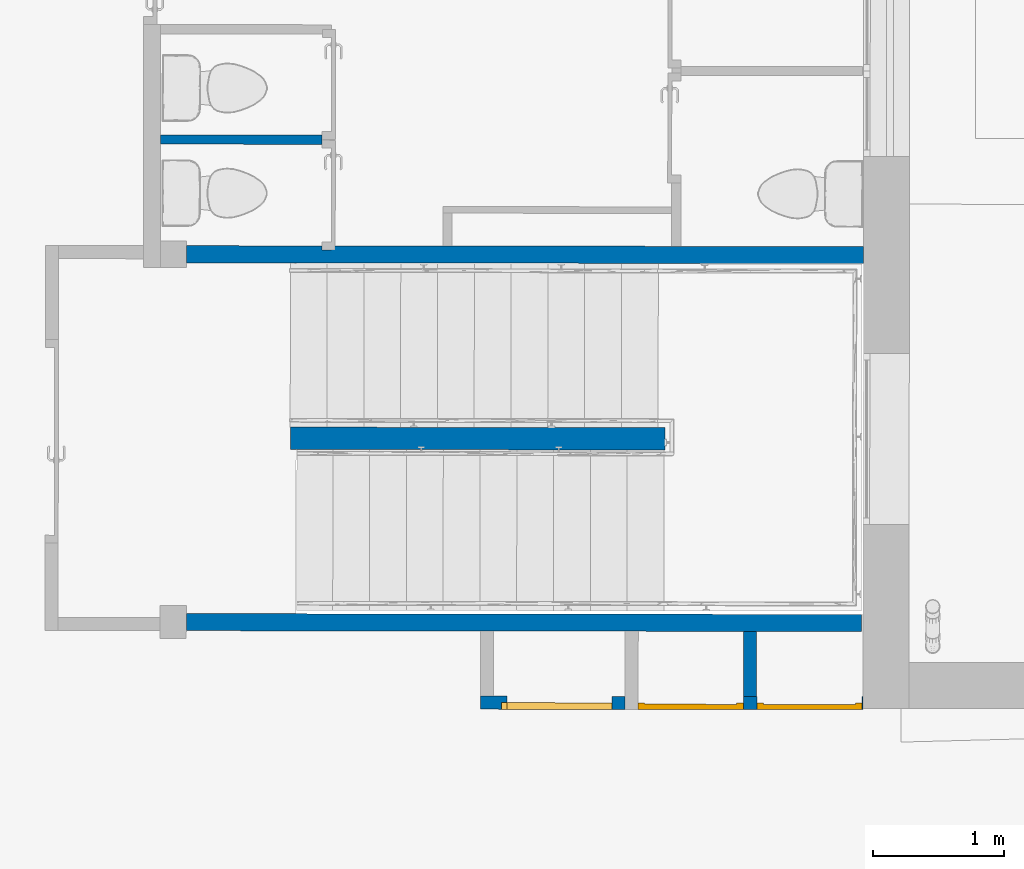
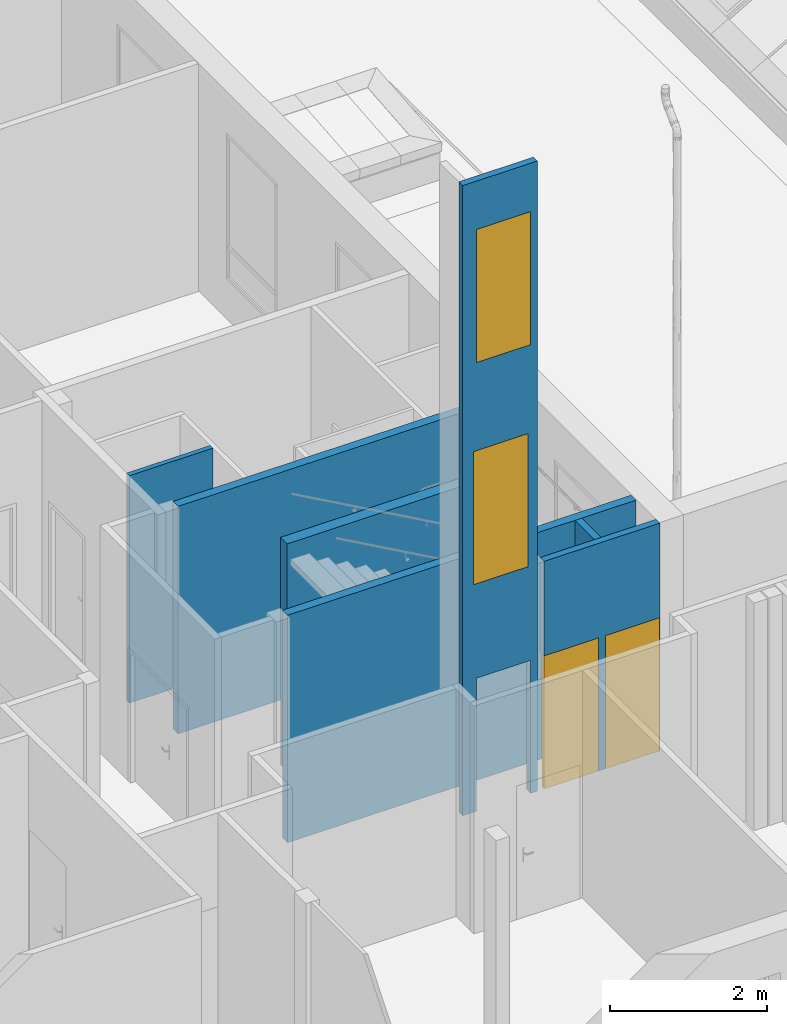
"""IFC2X3 building model written with IfcOpenShell, lengths in metres."""

from ifc_helpers import new_model, entity, si_unit, converted_unit, derived_unit, direction, frame, frame_2d, origin, place, context, subcontext, project, spatial, rectangle, extrude, faceted_brep, source, transform, mapped, material, material_list, layer, layer_set, layer_usage, type_object, type_shapes, element, fill, save


model = new_model("IFC2X3")

# Units and contexts
model_context = context("Model", 3, precision=1e-05, world=origin(), true_north=direction((6.123233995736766e-17, 1.0)))
body_context = subcontext(model_context, "Body", "Model", "MODEL_VIEW")
ifc_project = project(units=[si_unit("LENGTHUNIT", "METRE"), si_unit("AREAUNIT", "SQUARE_METRE"), converted_unit("PLANEANGLEUNIT", "DEGREE", entity("IfcPlaneAngleMeasure", 0.017453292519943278), si_unit("PLANEANGLEUNIT", "RADIAN"), dimensions=[0, 0, 0, 0, 0, 0, 0]), derived_unit("THERMALTRANSMITTANCEUNIT", [(si_unit("MASSUNIT", "GRAM", prefix="KILO"), 1), (si_unit("THERMODYNAMICTEMPERATUREUNIT", "KELVIN"), -1), (si_unit("TIMEUNIT", "SECOND"), -3)])], contexts=[model_context])

# Site, building, storey
site_placement = place(None, frame((1253.6752467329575, 2072.143113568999, 91.49999999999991), z_axis=(0.0, 0.0, 1.0), x_axis=(0.7237211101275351, 0.6900925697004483, 0.0)))
site = spatial("IfcSite", under=ifc_project, at=site_placement, Name="Surface", CompositionType="ELEMENT")
building_placement = place(site_placement, origin())
building = spatial("IfcBuilding", under=site, at=building_placement, CompositionType="ELEMENT")
storey_1_placement = place(building_placement, origin())
storey_1 = spatial("IfcBuildingStorey", under=building, at=storey_1_placement, Name="0- Rdc", CompositionType="ELEMENT", Elevation=-5.764692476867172e-13)

# Wall
ifc_material_1 = material(Name="OMD_Béton blanc")
ifc_layer_1 = layer(ifc_material_1, 0.12999999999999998)
ifc_layer_set_1 = layer_set([ifc_layer_1], Name="Mur de base:MUR 13")
ifc_layer_usage_1 = layer_usage(ifc_layer_set_1, "AXIS2", "NEGATIVE", 0.06499999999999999)
wall_type_1 = type_object("IfcWallType", Name="Mur de base:MUR 13", PredefinedType="STANDARD", material=ifc_layer_set_1)
wall_1_placement = place(storey_1_placement, frame((160.02354715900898, 1.5641534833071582, 0.0), z_axis=(0.0, 0.0, 1.0), x_axis=(-0.7228702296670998, 0.6909838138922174, 0.0)))
element("IfcWallStandardCase", 1, at=wall_1_placement, inside=storey_1, type_object=wall_type_1, material=ifc_layer_usage_1, Name="Mur de base:MUR 13", ObjectType="Mur de base:MUR 13", context=body_context, shape_type="SweptSolid", body=[
    extrude(rectangle(XDim=5.140000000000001, YDim=0.13000000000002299, at=frame_2d((2.5700000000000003, -5.065392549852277e-16), x_axis=(-1.0, 0.0))), origin(), (0.0, 0.0, 1.0), 3.5499999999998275),
])

# Wall, opening
ifc_layer_usage_2 = layer_usage(ifc_layer_set_1, "AXIS2", "NEGATIVE", 0.06499999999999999)
wall_2_placement = place(storey_1_placement, frame((161.96553054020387, 3.5812802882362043, 0.0), z_axis=(0.0, 0.0, 1.0), x_axis=(-0.7228702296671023, 0.6909838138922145, 0.0)))
wall_2 = element("IfcWallStandardCase", 2, at=wall_2_placement, inside=storey_1, type_object=wall_type_1, material=ifc_layer_usage_2, Name="Mur de base:MUR 13", ObjectType="Mur de base:MUR 13", context=body_context, shape_type="SweptSolid", body=[
    extrude(rectangle(XDim=5.149999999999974, YDim=0.1300000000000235, at=frame_2d((2.574999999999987, 4.163336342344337e-17), x_axis=(-1.0, 0.0))), origin(), (0.0, 0.0, 1.0), 3.5499999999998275),
])
opening_1_placement = place(wall_2_placement, frame((114.60545354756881, 114.50436091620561, 0.0)))
element("IfcOpeningElement", 3, at=opening_1_placement, cuts=wall_2, Name="Mur de base:MUR 13", ObjectType="Opening", context=body_context, shape_type="SweptSolid", body=[
    extrude(rectangle(XDim=2.0850000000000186, YDim=0.07000000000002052, at=frame_2d((1.738539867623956e-14, -1.1102230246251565e-16), x_axis=(0.0, 1.0))), frame((-110.52045354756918, -115.37311091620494, 1.0425000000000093), z_axis=(0.0, 1.0, 0.0), x_axis=(1.0, 0.0, 0.0)), (0.0, 0.0, 1.0), 0.8349999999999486),
])

# Wall
ifc_layer_2 = layer(ifc_material_1, 0.1)
ifc_layer_set_2 = layer_set([ifc_layer_2], Name="Mur de base:MUR 10")
ifc_layer_usage_3 = layer_usage(ifc_layer_set_2, "AXIS2", "NEGATIVE", 0.05)
wall_type_2 = type_object("IfcWallType", Name="Mur de base:MUR 10", PredefinedType="STANDARD", material=ifc_layer_set_2)
wall_3_placement = place(storey_1_placement, frame((159.36419351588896, 2.104503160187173, 0.0), z_axis=(0.0, 0.0, 1.0), x_axis=(-0.6909838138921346, -0.7228702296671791, 0.0)))
element("IfcWallStandardCase", 4, at=wall_3_placement, inside=storey_1, type_object=wall_type_2, material=ifc_layer_usage_3, Name="Mur de base:MUR 10", ObjectType="Mur de base:MUR 10", context=body_context, shape_type="SweptSolid", body=[
    extrude(rectangle(XDim=0.4949999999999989, YDim=0.10000000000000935, at=frame_2d((0.24749999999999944, -8.465450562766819e-16), x_axis=(-1.0, 0.0))), origin(), (0.0, 0.0, 1.0), 3.5499999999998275),
])

# Wall, openings, doors
ifc_layer_usage_4 = layer_usage(ifc_layer_set_2, "AXIS2", "NEGATIVE", 0.05)
wall_4_placement = place(storey_1_placement, frame((159.60927573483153, 1.1162928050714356, 0.0), z_axis=(0.0, 0.0, 1.0), x_axis=(-0.7228702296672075, 0.6909838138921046, 0.0)))
wall_4 = element("IfcWallStandardCase", 5, at=wall_4_placement, inside=storey_1, type_object=wall_type_2, material=ifc_layer_usage_4, Name="Mur de base:MUR 10", ObjectType="Mur de base:MUR 10", context=body_context, shape_type="SweptSolid", body=[
    extrude(rectangle(XDim=1.7099999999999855, YDim=0.10000000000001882, at=frame_2d((0.8549999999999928, 5.967448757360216e-16), x_axis=(-1.0, 0.0))), origin(), (0.0, 0.0, 1.0), 3.5499999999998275),
])
opening_2_placement = place(wall_4_placement, frame((1.709999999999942, 0.050000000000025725, 0.0)))
opening_2 = element("IfcOpeningElement", 6, at=opening_2_placement, cuts=wall_4, Name="Grz_Placard 1V:80X204:1", ObjectType="Opening", context=body_context, shape_type="SweptSolid", body=[
    extrude(rectangle(XDim=2.0749999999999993, YDim=0.8, at=frame_2d((1.0374999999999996, 0.4), x_axis=(1.0, 0.0))), frame((0.0, 0.0, 0.0), z_axis=(0.0, -1.0, 0.0), x_axis=(0.0, 0.0, 1.0)), (0.0, 0.0, 1.0), 0.1),
])
opening_3_placement = place(wall_4_placement, frame((0.8049999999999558, 0.050000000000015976, 0.0)))
opening_3 = element("IfcOpeningElement", 7, at=opening_3_placement, cuts=wall_4, Name="Grz_Placard 1V:80X204:1", ObjectType="Opening", context=body_context, shape_type="SweptSolid", body=[
    extrude(rectangle(XDim=2.0749999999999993, YDim=0.8, at=frame_2d((1.0374999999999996, 0.4), x_axis=(1.0, 0.0))), frame((0.0, 0.0, 0.0), z_axis=(0.0, -1.0, 0.0), x_axis=(0.0, 0.0, 1.0)), (0.0, 0.0, 1.0), 0.1),
])
ifc_material_2 = material(Name="Porte - Panneau")
ifc_material_3 = material(Name="Porte - Cadre")
ifc_material_list = material_list([ifc_material_2, ifc_material_3])
door_style_1 = type_object("IfcDoorStyle", Name="Grz_Placard 1V:80X204", ConstructionType="NOTDEFINED", OperationType="DOUBLE_DOOR_SINGLE_SWING", ParameterTakesPrecedence=False, Sizeable=False, material=ifc_material_list)
shared_shape_1 = source(origin(), body_context, "Body", "Brep", [
    faceted_brep([(0.03499999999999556, 0.0, 2.04), (0.03499999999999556, 0.0, 0.0), (0.7649999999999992, 0.0, 0.0), (0.7649999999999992, 0.0, 2.04), (0.0349999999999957, 0.040000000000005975, 2.04), (0.0349999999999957, 0.040000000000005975, 0.0), (0.7649999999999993, 0.04000000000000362, 0.0), (0.7649999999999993, 0.04000000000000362, 2.04)], [[[0, 1, 2, 3]], [[1, 0, 4, 5]], [[2, 1, 5, 6]], [[3, 2, 6, 7]], [[4, 7, 6, 5]], [[0, 3, 7, 4]]]),
    faceted_brep([(0.0, 0.050000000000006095, 0.0), (0.0499999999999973, 0.05000000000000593, 0.0), (0.0499999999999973, 0.040000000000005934, 0.0), (0.0349999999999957, 0.04000000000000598, 0.0), (0.03499999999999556, 0.0, 0.0), (0.0, 0.0, 0.0), (0.0, 0.050000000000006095, 2.0749999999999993), (0.8000000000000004, 0.05000000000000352, 2.0749999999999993), (0.8000000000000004, 0.05000000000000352, 0.0), (0.7500000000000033, 0.05000000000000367, 0.0), (0.7500000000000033, 0.05000000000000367, 2.025000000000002), (0.04999999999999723, 0.05000000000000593, 2.025000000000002), (0.049999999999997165, 0.040000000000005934, 2.025000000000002), (0.7500000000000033, 0.040000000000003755, 2.025000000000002), (0.7500000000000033, 0.04000000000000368, 0.0), (0.7650000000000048, 0.04000000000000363, 0.0), (0.7650000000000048, 0.04000000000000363, 2.0400000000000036), (0.03499999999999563, 0.04000000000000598, 2.0400000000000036), (0.03499999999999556, 0.0, 2.0400000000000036), (0.7650000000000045, 0.0, 2.040000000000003), (0.7650000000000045, 0.0, 0.0), (0.8, 0.0, 0.0), (0.8000000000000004, 0.0, 2.0749999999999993), (0.0, 0.0, 2.0749999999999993)], [[[0, 1, 2, 3, 4, 5]], [[1, 0, 6, 7, 8, 9, 10, 11]], [[2, 1, 11, 12]], [[3, 2, 12, 13, 14, 15, 16, 17]], [[4, 3, 17, 18]], [[5, 4, 18, 19, 20, 21, 22, 23]], [[0, 5, 23, 6]], [[7, 22, 21, 8]], [[8, 21, 20, 15, 14, 9]], [[13, 10, 9, 14]], [[19, 16, 15, 20]], [[12, 11, 10, 13]], [[18, 17, 16, 19]], [[6, 23, 22, 7]]]),
])
type_shapes(door_style_1, [shared_shape_1])
door_1_placement = place(opening_2_placement, frame((0.0, 0.0, 0.0), z_axis=(0.0, 0.0, 1.0), x_axis=(-1.0, 0.0, 0.0)))
door_1 = element("IfcDoor", 8, at=door_1_placement, inside=storey_1, type_object=door_style_1, material=ifc_material_list, Name="Grz_Placard 1V:80X204", ObjectType="Grz_Placard 1V:80X204", OverallHeight=2.0749999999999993, OverallWidth=0.8000000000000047, context=body_context, shape_type="MappedRepresentation", body=[
    mapped(shared_shape_1, transform((0.0, 0.0, 0.0), scale=1.0)),
])
fill(opening_2, door_1)
door_2_placement = place(opening_3_placement, frame((0.0, 0.0, 0.0), z_axis=(0.0, 0.0, 1.0), x_axis=(-1.0, 0.0, 0.0)))
door_2 = element("IfcDoor", 9, at=door_2_placement, inside=storey_1, type_object=door_style_1, material=ifc_material_list, Name="Grz_Placard 1V:80X204", ObjectType="Grz_Placard 1V:80X204", OverallHeight=2.0749999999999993, OverallWidth=0.8000000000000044, context=body_context, shape_type="MappedRepresentation", body=[
    mapped(shared_shape_1, transform((0.0, 0.0, 0.0), scale=1.0)),
])
fill(opening_3, door_2)

# Walls
ifc_layer_3 = layer(ifc_material_1, 0.17)
ifc_layer_set_3 = layer_set([ifc_layer_3], Name="Mur de base:MUR 17")
ifc_layer_usage_5 = layer_usage(ifc_layer_set_3, "AXIS2", "NEGATIVE", 0.085)
wall_type_3 = type_object("IfcWallType", Name="Mur de base:MUR 17", PredefinedType="STANDARD", material=ifc_layer_set_3)
wall_5_placement = place(storey_1_placement, frame((159.90661915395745, 3.6126475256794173, 0.0), z_axis=(0.0, 0.0, 1.0), x_axis=(-0.7228702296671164, 0.6909838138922, 0.0)))
element("IfcWallStandardCase", 10, at=wall_5_placement, inside=storey_1, type_object=wall_type_3, material=ifc_layer_usage_5, Name="Mur de base:MUR 17", ObjectType="Mur de base:MUR 17", context=body_context, shape_type="SweptSolid", body=[
    extrude(rectangle(XDim=2.850000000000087, YDim=0.17000000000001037, at=frame_2d((1.4250000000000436, -2.796374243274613e-15), x_axis=(-1.0, 0.0))), origin(), (0.0, 0.0, 1.0), 3.5499999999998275),
])
ifc_layer_4 = layer(ifc_material_1, 0.07)
ifc_layer_set_4 = layer_set([ifc_layer_4], Name="Mur de base:MUR 7")
ifc_layer_usage_6 = layer_usage(ifc_layer_set_4, "AXIS2", "NEGATIVE", 0.035)
wall_type_4 = type_object("IfcWallType", Name="Mur de base:MUR 7", PredefinedType="STANDARD", material=ifc_layer_set_4)
wall_6_placement = place(storey_1_placement, frame((159.59018857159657, 7.05883787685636, 0.0), z_axis=(0.0, 0.0, 1.0), x_axis=(-0.7228702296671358, 0.6909838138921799, 0.0)))
element("IfcWallStandardCase", 11, at=wall_6_placement, inside=storey_1, type_object=wall_type_4, material=ifc_layer_usage_6, Name="Mur de base:MUR 7", ObjectType="Mur de base:MUR 7", context=body_context, shape_type="SweptSolid", body=[
    extrude(rectangle(XDim=1.2300000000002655, YDim=0.07000000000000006, at=frame_2d((0.6150000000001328, -1.0061396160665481e-15), x_axis=(-1.0, 0.0))), origin(), (0.0, 0.0, 1.0), 3.5499999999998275),
])

# Wall, openings
ifc_material_4 = material(Name="OMD_Cloison 100mm")
ifc_layer_5 = layer(ifc_material_4, 0.1)
ifc_layer_set_5 = layer_set([ifc_layer_5], Name="Mur de base:Cloison 100mm")
ifc_layer_usage_7 = layer_usage(ifc_layer_set_5, "AXIS2", "NEGATIVE", 0.05)
wall_type_5 = type_object("IfcWallType", Name="Mur de base:Cloison 100mm", PredefinedType="STANDARD", material=ifc_layer_set_5)
wall_7_placement = place(storey_1_placement, frame((158.30088061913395, 2.366973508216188, 0.0), z_axis=(0.0, 0.0, 1.0), x_axis=(-0.7228702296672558, 0.6909838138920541, 0.0)))
wall_7 = element("IfcWallStandardCase", 12, at=wall_7_placement, inside=storey_1, type_object=wall_type_5, material=ifc_layer_usage_7, Name="Mur de base:Cloison 100mm", ObjectType="Mur de base:Cloison 100mm", context=body_context, shape_type="SweptSolid", body=[
    extrude(rectangle(XDim=1.1000000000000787, YDim=0.1000000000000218, at=frame_2d((0.5500000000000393, -1.1796119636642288e-16), x_axis=(-1.0, 0.0))), origin(), (0.0, 0.0, 1.0), 9.83000000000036),
])
opening_4_placement = place(wall_7_placement, frame((0.9000000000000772, 0.05000000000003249, 0.0)))
element("IfcOpeningElement", 13, at=opening_4_placement, cuts=wall_7, Name="Grz_Placard 1V:80X204:1", ObjectType="Opening", context=body_context, shape_type="SweptSolid", body=[
    extrude(rectangle(XDim=2.0749999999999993, YDim=0.8, at=frame_2d((1.0374999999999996, 0.40000000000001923), x_axis=(1.0, 0.0))), frame((0.0, 0.0, 0.0), z_axis=(0.0, -1.0, 0.0), x_axis=(0.0, 0.0, 1.0)), (0.0, 0.0, 1.0), 0.1),
])
opening_5_placement = place(wall_7_placement, frame((0.9400000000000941, 0.05000000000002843, 3.549999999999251)))
opening_5 = element("IfcOpeningElement", 14, at=opening_5_placement, cuts=wall_7, Name="Grz_Placard 1V:80X204:1", ObjectType="Opening", context=body_context, shape_type="SweptSolid", body=[
    extrude(rectangle(XDim=2.0749999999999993, YDim=0.8, at=frame_2d((1.0374999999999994, 0.4), x_axis=(1.0, 0.0))), frame((0.0, 0.0, 0.0), z_axis=(0.0, -1.0, 0.0), x_axis=(0.0, 0.0, 1.0)), (0.0, 0.0, 1.0), 0.1),
])
opening_6_placement = place(wall_7_placement, frame((0.9000000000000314, 0.050000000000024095, 7.0)))
opening_6 = element("IfcOpeningElement", 15, at=opening_6_placement, cuts=wall_7, Name="Grz_Placard 1V:80X204:1", ObjectType="Opening", context=body_context, shape_type="SweptSolid", body=[
    extrude(rectangle(XDim=2.0749999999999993, YDim=0.8, at=frame_2d((1.0374999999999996, 0.4), x_axis=(1.0, 0.0))), frame((0.0, 0.0, 0.0), z_axis=(0.0, -1.0, 0.0), x_axis=(0.0, 0.0, 1.0)), (0.0, 0.0, 1.0), 0.1),
])

# Storey
storey_2_placement = place(building_placement, frame((0.0, 0.0, 3.549999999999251)))
storey_2 = spatial("IfcBuildingStorey", under=building, at=storey_2_placement, Name="1-R+1", CompositionType="ELEMENT", Elevation=3.549999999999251)

# Door
door_style_2 = type_object("IfcDoorStyle", Name="Grz_Placard 1V:80X204", ConstructionType="NOTDEFINED", OperationType="DOUBLE_DOOR_SINGLE_SWING", ParameterTakesPrecedence=False, Sizeable=False, material=ifc_material_list)
shared_shape_2 = source(origin(), body_context, "Body", "Brep", [
    faceted_brep([(0.03499999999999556, 0.0, 2.04), (0.03499999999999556, 0.0, 0.0), (0.7649999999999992, 0.0, 0.0), (0.7649999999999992, 0.0, 2.04), (0.0349999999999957, 0.040000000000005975, 2.04), (0.0349999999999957, 0.040000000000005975, 0.0), (0.7649999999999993, 0.04000000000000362, 0.0), (0.7649999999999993, 0.04000000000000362, 2.04)], [[[0, 1, 2, 3]], [[1, 0, 4, 5]], [[2, 1, 5, 6]], [[3, 2, 6, 7]], [[4, 7, 6, 5]], [[0, 3, 7, 4]]]),
    faceted_brep([(0.0, 0.050000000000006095, 0.0), (0.0499999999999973, 0.05000000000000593, 0.0), (0.0499999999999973, 0.040000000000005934, 0.0), (0.0349999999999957, 0.04000000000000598, 0.0), (0.03499999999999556, 0.0, 0.0), (0.0, 0.0, 0.0), (0.0, 0.050000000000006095, 2.0749999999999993), (0.8000000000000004, 0.05000000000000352, 2.0749999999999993), (0.8000000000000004, 0.05000000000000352, 0.0), (0.7500000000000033, 0.05000000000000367, 0.0), (0.7500000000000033, 0.05000000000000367, 2.025000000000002), (0.04999999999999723, 0.05000000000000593, 2.025000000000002), (0.049999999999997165, 0.040000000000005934, 2.025000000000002), (0.7500000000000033, 0.040000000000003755, 2.025000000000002), (0.7500000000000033, 0.04000000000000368, 0.0), (0.7650000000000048, 0.04000000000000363, 0.0), (0.7650000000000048, 0.04000000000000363, 2.0400000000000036), (0.03499999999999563, 0.04000000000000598, 2.0400000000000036), (0.03499999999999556, 0.0, 2.0400000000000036), (0.7650000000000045, 0.0, 2.040000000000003), (0.7650000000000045, 0.0, 0.0), (0.8, 0.0, 0.0), (0.8000000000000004, 0.0, 2.0749999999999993), (0.0, 0.0, 2.0749999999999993)], [[[0, 1, 2, 3, 4, 5]], [[1, 0, 6, 7, 8, 9, 10, 11]], [[2, 1, 11, 12]], [[3, 2, 12, 13, 14, 15, 16, 17]], [[4, 3, 17, 18]], [[5, 4, 18, 19, 20, 21, 22, 23]], [[0, 5, 23, 6]], [[7, 22, 21, 8]], [[8, 21, 20, 15, 14, 9]], [[13, 10, 9, 14]], [[19, 16, 15, 20]], [[12, 11, 10, 13]], [[18, 17, 16, 19]], [[6, 23, 22, 7]]]),
])
type_shapes(door_style_2, [shared_shape_2])
door_3_placement = place(opening_5_placement, frame((0.0, 0.0, 0.0), z_axis=(0.0, 0.0, 1.0), x_axis=(-1.0, 0.0, 0.0)))
door_3 = element("IfcDoor", 16, at=door_3_placement, inside=storey_2, type_object=door_style_2, material=ifc_material_list, Name="Grz_Placard 1V:80X204", ObjectType="Grz_Placard 1V:80X204", OverallHeight=2.074999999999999, OverallWidth=0.8, context=body_context, shape_type="MappedRepresentation", body=[
    mapped(shared_shape_2, transform((0.0, 0.0, 0.0), scale=1.0)),
])

fill(opening_5, door_3)

# Storey
storey_3_placement = place(building_placement, frame((0.0, 0.0, 7.0)))
storey_3 = spatial("IfcBuildingStorey", under=building, at=storey_3_placement, Name="2-R+2", CompositionType="ELEMENT", Elevation=6.999999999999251)

# Door
door_4_placement = place(opening_6_placement, frame((0.0, 0.0, 0.0), z_axis=(0.0, 0.0, 1.0), x_axis=(-1.0, 0.0, 0.0)))
door_4 = element("IfcDoor", 17, at=door_4_placement, inside=storey_3, type_object=door_style_2, material=ifc_material_list, Name="Grz_Placard 1V:80X204", ObjectType="Grz_Placard 1V:80X204", OverallHeight=2.0749999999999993, OverallWidth=0.7999999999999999, context=body_context, shape_type="MappedRepresentation", body=[
    mapped(shared_shape_2, transform((0.0, 0.0, 0.0), scale=1.0)),
])

fill(opening_6, door_4)

save(model, "model.ifc")
